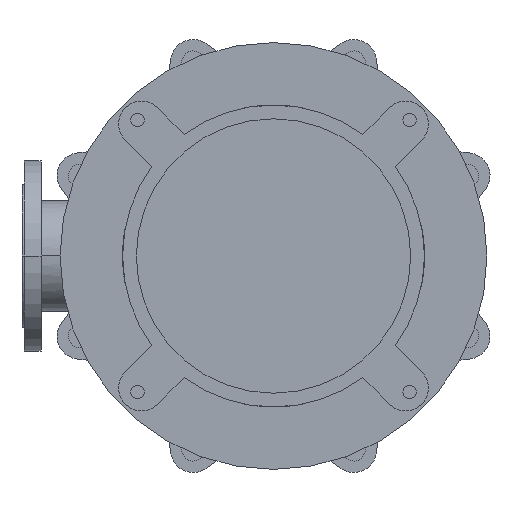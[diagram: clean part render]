
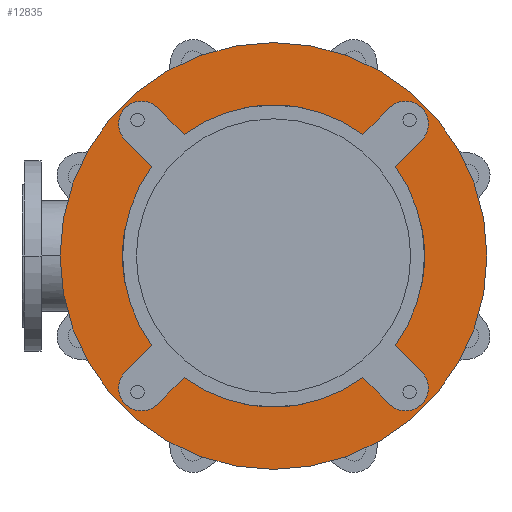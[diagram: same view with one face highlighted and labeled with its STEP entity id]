
A CAD part, front view. The second image highlights one B-rep face of the part: STEP entity #12835.
In plain terms, the highlighted planar face has unit normal (0, -1, 0).
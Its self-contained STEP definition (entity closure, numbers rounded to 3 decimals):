
#2485=CARTESIAN_POINT('',(0.,-25.,0.));
#2486=DIRECTION('',(0.,1.,0.));
#2487=DIRECTION('',(0.592,0.,-0.806));
#2488=AXIS2_PLACEMENT_3D('',#2485,#2486,#2487);
#2503=CARTESIAN_POINT('',(0.,-25.,0.));
#2504=DIRECTION('',(0.,1.,0.));
#2505=DIRECTION('',(0.806,0.,0.592));
#2506=AXIS2_PLACEMENT_3D('',#2503,#2504,#2505);
#2530=CARTESIAN_POINT('',(0.,-25.,0.));
#2531=DIRECTION('',(0.,1.,0.));
#2532=DIRECTION('',(-0.806,0.,-0.592));
#2533=AXIS2_PLACEMENT_3D('',#2530,#2531,#2532);
#2539=CARTESIAN_POINT('',(0.,-25.,0.));
#2540=DIRECTION('',(0.,1.,0.));
#2541=DIRECTION('',(-0.592,0.,0.806));
#2542=AXIS2_PLACEMENT_3D('',#2539,#2540,#2541);
#2717=CARTESIAN_POINT('',(0.,-25.,0.));
#2718=DIRECTION('',(0.,-1.,0.));
#2719=DIRECTION('',(-1.,0.,0.));
#2720=AXIS2_PLACEMENT_3D('',#2717,#2718,#2719);
#2722=CARTESIAN_POINT('',(0.,-25.,0.));
#2723=DIRECTION('',(0.,1.,0.));
#2724=DIRECTION('',(-1.,0.,0.));
#2725=AXIS2_PLACEMENT_3D('',#2722,#2723,#2724);
#2727=CARTESIAN_POINT('',(-173.241,-25.,173.241));
#2728=DIRECTION('',(0.,-1.,0.));
#2729=DIRECTION('',(0.707,0.,0.707));
#2730=AXIS2_PLACEMENT_3D('',#2727,#2728,#2729);
#2732=DIRECTION('',(0.707,0.,-0.707));
#2733=VECTOR('',#2732,49.286);
#2734=CARTESIAN_POINT('',(-194.454,-25.,152.028));
#2735=LINE('',#2734,#2733);
#2736=DIRECTION('',(-0.707,0.,-0.707));
#2737=VECTOR('',#2736,49.286);
#2738=CARTESIAN_POINT('',(-159.604,-25.,-117.178));
#2739=LINE('',#2738,#2737);
#2740=CARTESIAN_POINT('',(-173.241,-25.,-173.241));
#2741=DIRECTION('',(0.,-1.,0.));
#2742=DIRECTION('',(-0.707,0.,0.707));
#2743=AXIS2_PLACEMENT_3D('',#2740,#2741,#2742);
#2745=DIRECTION('',(0.707,0.,0.707));
#2746=VECTOR('',#2745,49.286);
#2747=CARTESIAN_POINT('',(-152.028,-25.,-194.454));
#2748=LINE('',#2747,#2746);
#2749=DIRECTION('',(0.707,0.,-0.707));
#2750=VECTOR('',#2749,49.286);
#2751=CARTESIAN_POINT('',(117.178,-25.,-159.604));
#2752=LINE('',#2751,#2750);
#2753=CARTESIAN_POINT('',(173.241,-25.,-173.241));
#2754=DIRECTION('',(0.,-1.,0.));
#2755=DIRECTION('',(-0.707,0.,-0.707));
#2756=AXIS2_PLACEMENT_3D('',#2753,#2754,#2755);
#2758=DIRECTION('',(-0.707,0.,0.707));
#2759=VECTOR('',#2758,49.286);
#2760=CARTESIAN_POINT('',(194.454,-25.,-152.028));
#2761=LINE('',#2760,#2759);
#2762=DIRECTION('',(0.707,0.,0.707));
#2763=VECTOR('',#2762,49.286);
#2764=CARTESIAN_POINT('',(159.604,-25.,117.178));
#2765=LINE('',#2764,#2763);
#2766=CARTESIAN_POINT('',(173.241,-25.,173.241));
#2767=DIRECTION('',(0.,-1.,0.));
#2768=DIRECTION('',(0.707,0.,-0.707));
#2769=AXIS2_PLACEMENT_3D('',#2766,#2767,#2768);
#2771=DIRECTION('',(-0.707,0.,-0.707));
#2772=VECTOR('',#2771,49.286);
#2773=CARTESIAN_POINT('',(152.028,-25.,194.454));
#2774=LINE('',#2773,#2772);
#2775=DIRECTION('',(-0.707,0.,0.707));
#2776=VECTOR('',#2775,49.286);
#2777=CARTESIAN_POINT('',(-117.178,-25.,159.604));
#2778=LINE('',#2777,#2776);
#8362=CARTESIAN_POINT('',(-280.,-25.,0.));
#8363=CARTESIAN_POINT('',(280.,-25.,0.));
#8364=VERTEX_POINT('',#8362);
#8365=VERTEX_POINT('',#8363);
#8386=CARTESIAN_POINT('',(-194.454,-25.,-152.028));
#8387=CARTESIAN_POINT('',(-152.028,-25.,-194.454));
#8388=VERTEX_POINT('',#8386);
#8389=VERTEX_POINT('',#8387);
#8390=CARTESIAN_POINT('',(-117.178,-25.,-159.604));
#8391=VERTEX_POINT('',#8390);
#8392=CARTESIAN_POINT('',(-159.604,-25.,-117.178));
#8393=VERTEX_POINT('',#8392);
#8402=CARTESIAN_POINT('',(152.028,-25.,-194.454));
#8403=CARTESIAN_POINT('',(194.454,-25.,-152.028));
#8404=VERTEX_POINT('',#8402);
#8405=VERTEX_POINT('',#8403);
#8406=CARTESIAN_POINT('',(159.604,-25.,-117.178));
#8407=VERTEX_POINT('',#8406);
#8408=CARTESIAN_POINT('',(117.178,-25.,-159.604));
#8409=VERTEX_POINT('',#8408);
#8418=CARTESIAN_POINT('',(194.454,-25.,152.028));
#8419=CARTESIAN_POINT('',(152.028,-25.,194.454));
#8420=VERTEX_POINT('',#8418);
#8421=VERTEX_POINT('',#8419);
#8422=CARTESIAN_POINT('',(117.178,-25.,159.604));
#8423=VERTEX_POINT('',#8422);
#8424=CARTESIAN_POINT('',(159.604,-25.,117.178));
#8425=VERTEX_POINT('',#8424);
#8434=CARTESIAN_POINT('',(-152.028,-25.,194.454));
#8435=CARTESIAN_POINT('',(-194.454,-25.,152.028));
#8436=VERTEX_POINT('',#8434);
#8437=VERTEX_POINT('',#8435);
#8438=CARTESIAN_POINT('',(-159.604,-25.,117.178));
#8439=VERTEX_POINT('',#8438);
#8440=CARTESIAN_POINT('',(-117.178,-25.,159.604));
#8441=VERTEX_POINT('',#8440);
#12795=CARTESIAN_POINT('',(0.,-25.,0.));
#12796=DIRECTION('',(0.,-1.,0.));
#12797=DIRECTION('',(-1.,0.,0.));
#12798=AXIS2_PLACEMENT_3D('',#12795,#12796,#12797);
#12799=PLANE('',#12798);
#12801=ORIENTED_EDGE('',*,*,#12800,.F.);
#12803=ORIENTED_EDGE('',*,*,#12802,.T.);
#12804=EDGE_LOOP('',(#12801,#12803));
#12805=FACE_OUTER_BOUND('',#12804,.F.);
#12807=ORIENTED_EDGE('',*,*,#12806,.T.);
#12809=ORIENTED_EDGE('',*,*,#12808,.T.);
#12810=ORIENTED_EDGE('',*,*,#12748,.F.);
#12812=ORIENTED_EDGE('',*,*,#12811,.T.);
#12814=ORIENTED_EDGE('',*,*,#12813,.T.);
#12816=ORIENTED_EDGE('',*,*,#12815,.T.);
#12817=ORIENTED_EDGE('',*,*,#12701,.F.);
#12818=ORIENTED_EDGE('',*,*,#12785,.T.);
#12820=ORIENTED_EDGE('',*,*,#12819,.T.);
#12822=ORIENTED_EDGE('',*,*,#12821,.T.);
#12823=ORIENTED_EDGE('',*,*,#12722,.F.);
#12825=ORIENTED_EDGE('',*,*,#12824,.T.);
#12827=ORIENTED_EDGE('',*,*,#12826,.T.);
#12829=ORIENTED_EDGE('',*,*,#12828,.T.);
#12830=ORIENTED_EDGE('',*,*,#12766,.F.);
#12832=ORIENTED_EDGE('',*,*,#12831,.T.);
#12833=EDGE_LOOP('',(#12807,#12809,#12810,#12812,#12814,#12816,#12817,#12818,
#12820,#12822,#12823,#12825,#12827,#12829,#12830,#12832));
#12834=FACE_BOUND('',#12833,.F.);
#12835=ADVANCED_FACE('',(#12805,#12834),#12799,.T.);
#2489=CIRCLE('',#2488,198.);
#2507=CIRCLE('',#2506,198.);
#2534=CIRCLE('',#2533,198.);
#2543=CIRCLE('',#2542,198.);
#2721=CIRCLE('',#2720,280.);
#2726=CIRCLE('',#2725,280.);
#2731=CIRCLE('',#2730,30.);
#2744=CIRCLE('',#2743,30.);
#2757=CIRCLE('',#2756,30.);
#2770=CIRCLE('',#2769,30.);
#12701=EDGE_CURVE('',#8409,#8391,#2489,.T.);
#12722=EDGE_CURVE('',#8425,#8407,#2507,.T.);
#12748=EDGE_CURVE('',#8393,#8439,#2534,.T.);
#12766=EDGE_CURVE('',#8441,#8423,#2543,.T.);
#12785=EDGE_CURVE('',#8409,#8404,#2752,.T.);
#12800=EDGE_CURVE('',#8364,#8365,#2721,.T.);
#12802=EDGE_CURVE('',#8364,#8365,#2726,.T.);
#12806=EDGE_CURVE('',#8436,#8437,#2731,.T.);
#12808=EDGE_CURVE('',#8437,#8439,#2735,.T.);
#12811=EDGE_CURVE('',#8393,#8388,#2739,.T.);
#12813=EDGE_CURVE('',#8388,#8389,#2744,.T.);
#12815=EDGE_CURVE('',#8389,#8391,#2748,.T.);
#12819=EDGE_CURVE('',#8404,#8405,#2757,.T.);
#12821=EDGE_CURVE('',#8405,#8407,#2761,.T.);
#12824=EDGE_CURVE('',#8425,#8420,#2765,.T.);
#12826=EDGE_CURVE('',#8420,#8421,#2770,.T.);
#12828=EDGE_CURVE('',#8421,#8423,#2774,.T.);
#12831=EDGE_CURVE('',#8441,#8436,#2778,.T.);
